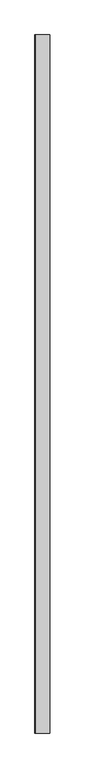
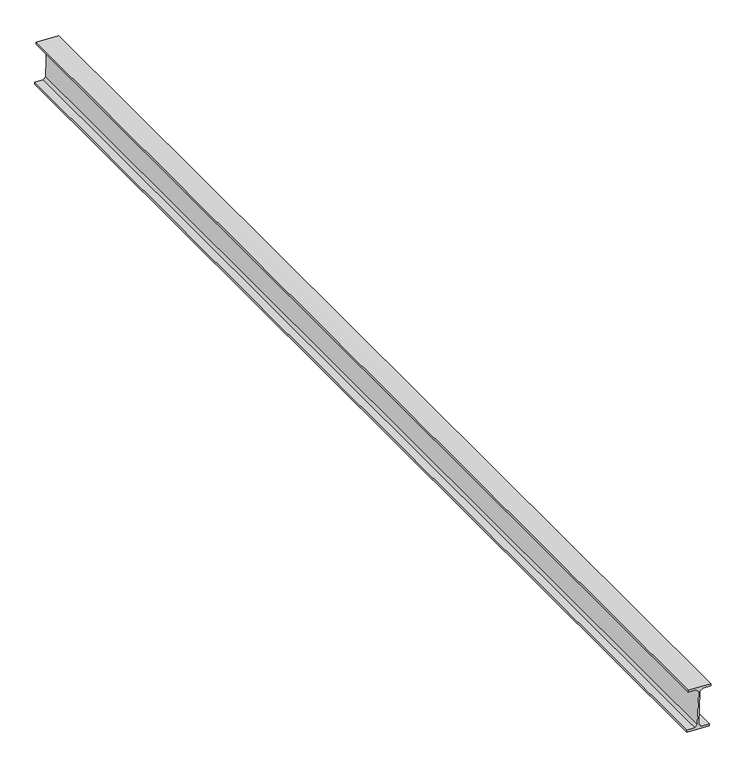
"""IFC4 building model written with IfcOpenShell, lengths in millimetres: beam geometry, Panne 3452 : Panne 3452."""

from ifc_helpers import new_model, si_unit, frame, origin, place, context, project, spatial, polyline, outline, extrude, source, transform, mapped, element, save


def beam_a9d04ade(model_context):
    return source(origin(), model_context, "Body", "SweptSolid", [
        extrude(outline(polyline([(7540.9489596, 9504.3734388), (7538.0807159, 9586.3232599), (7545.4761876, 9586.5821014), (7546.5080557, 9557.1001536), (7555.8173555, 9548.4204683), (7682.939517, 9552.8697439), (7691.6192024, 9562.1790437), (7690.5873342, 9591.6609916), (7697.9828058, 9591.9198331), (7700.8510496, 9509.970012), (7693.4555779, 9509.7111705), (7692.4237098, 9539.1931183), (7683.11441, 9547.8728036), (7555.9922484, 9543.423528), (7547.3125631, 9534.1142282), (7548.3444313, 9504.6322803), (7540.9489596, 9504.3734388)])), frame((0.0, -8510.0, 0.0), z_axis=(0.0, 1.0, 0.0), x_axis=(0.0, 0.0, 1.0)), (0.0, 0.0, 1.0), 4120.0),
    ])


if __name__ == "__main__":
    model = new_model("IFC4")
    model_context = context("Model", 3, world=origin())
    ifc_project = project(units=[si_unit("LENGTHUNIT", "METRE", prefix="MILLI")], contexts=[model_context])
    site = spatial("IfcSite", under=ifc_project)
    building = spatial("IfcBuilding", under=site)
    placement = place(None, origin())
    beam_shape = beam_a9d04ade(model_context)
    element("IfcBeam", 1, ObjectType="Panne 3452 : Panne 3452", at=placement, inside=building, context=model_context, shape_type="MappedRepresentation", body=[
        mapped(beam_shape, transform((0.0, 0.0, 0.0), x_axis=(1.0, 0.0, 0.0), y_axis=(0.0, 1.0, 0.0), z_axis=(0.0, 0.0, 1.0))),
    ])
    save(model, "model.ifc")
